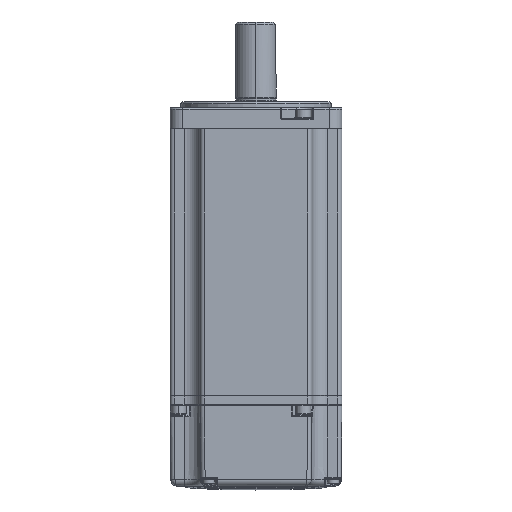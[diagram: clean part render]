
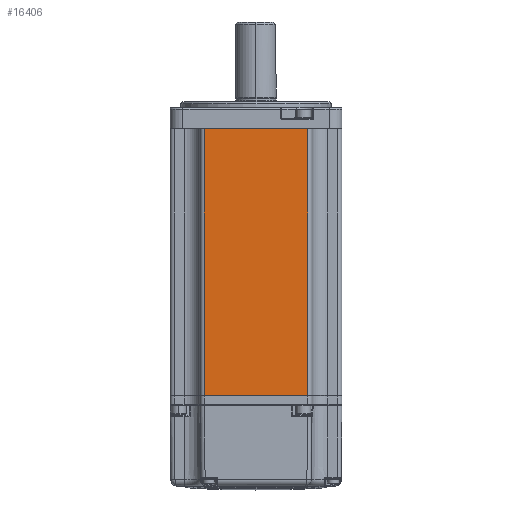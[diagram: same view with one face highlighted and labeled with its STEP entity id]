
A CAD part, front view. The second image highlights one B-rep face of the part: STEP entity #16406.
In plain terms, the highlighted planar face has unit normal (0, -1, 0).
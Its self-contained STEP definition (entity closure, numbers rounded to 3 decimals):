
#2511 = LINE ( 'NONE', #42435, #9076 ) ;
#5591 = EDGE_CURVE ( 'NONE', #15631, #17887, #2511, .T. ) ;
#5769 = PLANE ( 'NONE',  #46174 ) ;
#6239 = FACE_OUTER_BOUND ( 'NONE', #28420, .T. ) ;
#6997 = VERTEX_POINT ( 'NONE', #11146 ) ;
#9076 = VECTOR ( 'NONE', #51499, 1000. ) ;
#10841 = DIRECTION ( 'NONE',  ( 1., 0., 0. ) ) ;
#11146 = CARTESIAN_POINT ( 'NONE',  ( -24., -40., 1.2 ) ) ;
#13137 = VECTOR ( 'NONE', #25035, 1000. ) ;
#13474 = LINE ( 'NONE', #44855, #14102 ) ;
#14102 = VECTOR ( 'NONE', #10841, 1000. ) ;
#15631 = VERTEX_POINT ( 'NONE', #30746 ) ;
#16406 = ADVANCED_FACE ( 'NONE', ( #6239 ), #5769, .F. ) ;
#17826 = DIRECTION ( 'NONE',  ( -1., 0., 0. ) ) ;
#17887 = VERTEX_POINT ( 'NONE', #34112 ) ;
#19167 = DIRECTION ( 'NONE',  ( 0., 1., 0. ) ) ;
#19239 = ORIENTED_EDGE ( 'NONE', *, *, #34898, .T. ) ;
#21019 = EDGE_CURVE ( 'NONE', #47235, #6997, #55077, .T. ) ;
#24308 = CARTESIAN_POINT ( 'NONE',  ( -24., -40., 126.5 ) ) ;
#25035 = DIRECTION ( 'NONE',  ( 0., 0., -1. ) ) ;
#25697 = ORIENTED_EDGE ( 'NONE', *, *, #21019, .T. ) ;
#27657 = ORIENTED_EDGE ( 'NONE', *, *, #34299, .T. ) ;
#28420 = EDGE_LOOP ( 'NONE', ( #25697, #19239, #46695, #27657 ) ) ;
#29440 = LINE ( 'NONE', #42921, #49349 ) ;
#30746 = CARTESIAN_POINT ( 'NONE',  ( 24., -40., 1.2 ) ) ;
#33586 = CARTESIAN_POINT ( 'NONE',  ( -24., -40., 125.3 ) ) ;
#34112 = CARTESIAN_POINT ( 'NONE',  ( 24., -40., 125.3 ) ) ;
#34299 = EDGE_CURVE ( 'NONE', #17887, #47235, #29440, .T. ) ;
#34898 = EDGE_CURVE ( 'NONE', #6997, #15631, #13474, .T. ) ;
#36050 = DIRECTION ( 'NONE',  ( -1., 0., 0. ) ) ;
#40165 = CARTESIAN_POINT ( 'NONE',  ( 0., -40., 126.5 ) ) ;
#42435 = CARTESIAN_POINT ( 'NONE',  ( 24., -40., 126.5 ) ) ;
#42921 = CARTESIAN_POINT ( 'NONE',  ( -24., -40., 125.3 ) ) ;
#44855 = CARTESIAN_POINT ( 'NONE',  ( 24., -40., 1.2 ) ) ;
#46174 = AXIS2_PLACEMENT_3D ( 'NONE', #40165, #19167, #36050 ) ;
#46695 = ORIENTED_EDGE ( 'NONE', *, *, #5591, .T. ) ;
#47235 = VERTEX_POINT ( 'NONE', #33586 ) ;
#49349 = VECTOR ( 'NONE', #17826, 1000. ) ;
#51499 = DIRECTION ( 'NONE',  ( 0., 0., 1. ) ) ;
#55077 = LINE ( 'NONE', #24308, #13137 ) ;
